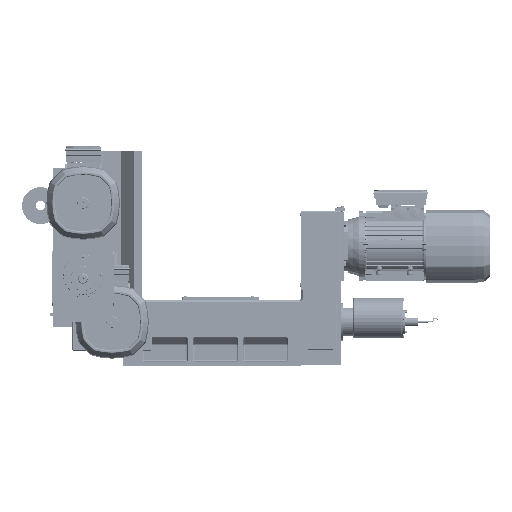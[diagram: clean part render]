
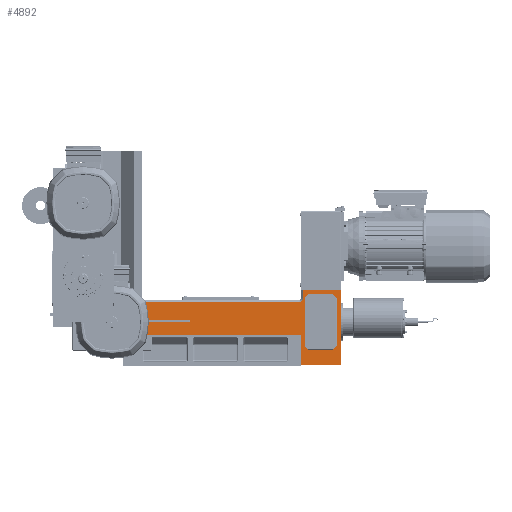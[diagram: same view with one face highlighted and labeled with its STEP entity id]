
A CAD part, left-side view. The second image highlights one B-rep face of the part: STEP entity #4892.
In plain terms, the highlighted planar face has unit normal (-1, 0, 0) as drawn and (0, 1, 0) by its records, which use the part's own axes.
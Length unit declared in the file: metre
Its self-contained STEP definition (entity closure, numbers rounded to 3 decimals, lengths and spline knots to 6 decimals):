
#4892 = ADVANCED_FACE( '', ( #9658 ), #9659, .T. );
#9658 = FACE_OUTER_BOUND( '', #20278, .T. );
#9659 = PLANE( '', #20279 );
#20278 = EDGE_LOOP( '', ( #36892, #36893, #36894, #36895, #36896, #36897, #36898, #36899, #36900 ) );
#20279 = AXIS2_PLACEMENT_3D( '', #36901, #36902, #36903 );
#36892 = ORIENTED_EDGE( '', *, *, #47694, .T. );
#36893 = ORIENTED_EDGE( '', *, *, #47695, .T. );
#36894 = ORIENTED_EDGE( '', *, *, #47696, .T. );
#36895 = ORIENTED_EDGE( '', *, *, #47697, .T. );
#36896 = ORIENTED_EDGE( '', *, *, #47698, .F. );
#36897 = ORIENTED_EDGE( '', *, *, #47699, .F. );
#36898 = ORIENTED_EDGE( '', *, *, #47691, .F. );
#36899 = ORIENTED_EDGE( '', *, *, #47670, .F. );
#36900 = ORIENTED_EDGE( '', *, *, #47700, .T. );
#36901 = CARTESIAN_POINT( '', ( -0.6225, 0.176111, 0. ) );
#36902 = DIRECTION( '', ( 0., 1., 0. ) );
#36903 = DIRECTION( '', ( 0., 0., 1. ) );
#47670 = EDGE_CURVE( '', #56979, #56981, #56982, .T. );
#47691 = EDGE_CURVE( '', #56981, #57016, #57017, .T. );
#47694 = EDGE_CURVE( '', #57020, #57021, #57022, .T. );
#47695 = EDGE_CURVE( '', #57021, #57023, #57024, .T. );
#47696 = EDGE_CURVE( '', #57023, #57025, #57026, .T. );
#47697 = EDGE_CURVE( '', #57025, #57027, #57028, .T. );
#47698 = EDGE_CURVE( '', #57029, #57027, #57030, .T. );
#47699 = EDGE_CURVE( '', #57016, #57029, #57031, .T. );
#47700 = EDGE_CURVE( '', #56979, #57020, #57032, .T. );
#56979 = VERTEX_POINT( '', #78344 );
#56981 = VERTEX_POINT( '', #78347 );
#56982 = LINE( '', #78348, #78349 );
#57016 = VERTEX_POINT( '', #78398 );
#57017 = LINE( '', #78399, #78400 );
#57020 = VERTEX_POINT( '', #78405 );
#57021 = VERTEX_POINT( '', #78406 );
#57022 = LINE( '', #78407, #78408 );
#57023 = VERTEX_POINT( '', #78409 );
#57024 = LINE( '', #78410, #78411 );
#57025 = VERTEX_POINT( '', #78412 );
#57026 = LINE( '', #78413, #78414 );
#57027 = VERTEX_POINT( '', #78415 );
#57028 = LINE( '', #78416, #78417 );
#57029 = VERTEX_POINT( '', #78418 );
#57030 = LINE( '', #78419, #78420 );
#57031 = CIRCLE( '', #78421, 0.011 );
#57032 = LINE( '', #78422, #78423 );
#78344 = CARTESIAN_POINT( '', ( 0.005, 0.176111, 0.091 ) );
#78347 = CARTESIAN_POINT( '', ( 0.005, 0.176111, 0.188 ) );
#78348 = CARTESIAN_POINT( '', ( 0.005, 0.176111, 0. ) );
#78349 = VECTOR( '', #89568, 1. );
#78398 = CARTESIAN_POINT( '', ( -0.4985, 0.176111, 0.188 ) );
#78399 = CARTESIAN_POINT( '', ( -0.435875, 0.176111, 0.188 ) );
#78400 = VECTOR( '', #89599, 1. );
#78405 = CARTESIAN_POINT( '', ( -0.505, 0.176111, 0.091 ) );
#78406 = CARTESIAN_POINT( '', ( -0.505, 0.176111, 0. ) );
#78407 = CARTESIAN_POINT( '', ( -0.505, 0.176111, 0. ) );
#78408 = VECTOR( '', #89602, 1. );
#78409 = CARTESIAN_POINT( '', ( -0.6225, 0.176111, 0. ) );
#78410 = CARTESIAN_POINT( '', ( 0.005, 0.176111, 0. ) );
#78411 = VECTOR( '', #89603, 1. );
#78412 = CARTESIAN_POINT( '', ( -0.6225, 0.176111, 0.224 ) );
#78413 = CARTESIAN_POINT( '', ( -0.6225, 0.176111, 0. ) );
#78414 = VECTOR( '', #89604, 1. );
#78415 = CARTESIAN_POINT( '', ( -0.5095, 0.176111, 0.224 ) );
#78416 = CARTESIAN_POINT( '', ( 0.005, 0.176111, 0.224 ) );
#78417 = VECTOR( '', #89605, 1. );
#78418 = CARTESIAN_POINT( '', ( -0.5095, 0.176111, 0.199 ) );
#78419 = CARTESIAN_POINT( '', ( -0.5095, 0.176111, 0.112 ) );
#78420 = VECTOR( '', #89606, 1. );
#78421 = AXIS2_PLACEMENT_3D( '', #89607, #89608, #89609 );
#78422 = CARTESIAN_POINT( '', ( -0.56375, 0.176111, 0.091 ) );
#78423 = VECTOR( '', #89610, 1. );
#89568 = DIRECTION( '', ( 0., 0., 1. ) );
#89599 = DIRECTION( '', ( -1., 0., 0. ) );
#89602 = DIRECTION( '', ( 0., 0., -1. ) );
#89603 = DIRECTION( '', ( -1., 0., 0. ) );
#89604 = DIRECTION( '', ( 0., 0., 1. ) );
#89605 = DIRECTION( '', ( 1., 0., 0. ) );
#89606 = DIRECTION( '', ( 0., 0., 1. ) );
#89607 = CARTESIAN_POINT( '', ( -0.4985, 0.176111, 0.199 ) );
#89608 = DIRECTION( '', ( 0., 1., 0. ) );
#89609 = DIRECTION( '', ( -0.707, 0., -0.707 ) );
#89610 = DIRECTION( '', ( -1., 0., 0. ) );
